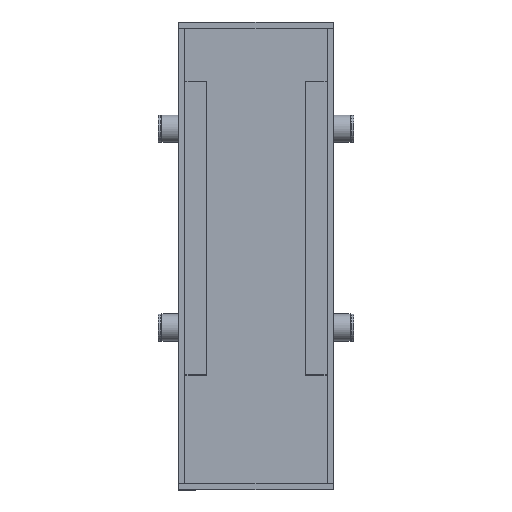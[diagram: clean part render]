
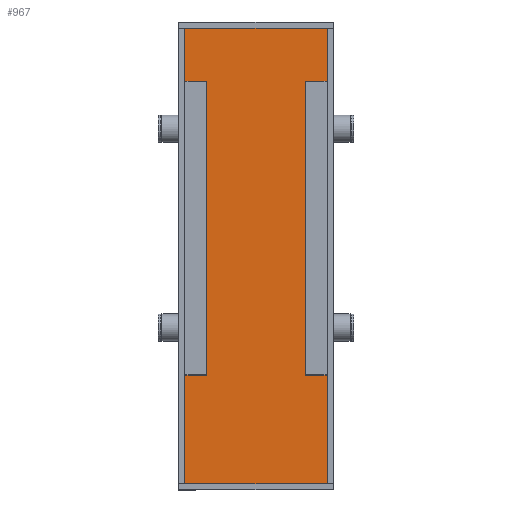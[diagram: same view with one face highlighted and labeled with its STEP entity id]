
A CAD part, top view. The second image highlights one B-rep face of the part: STEP entity #967.
In plain terms, the highlighted planar face has unit normal (0, 0, 1).
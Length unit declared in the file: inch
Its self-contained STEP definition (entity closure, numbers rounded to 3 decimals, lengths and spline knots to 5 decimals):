
#412=CARTESIAN_POINT('',(1.95496,-0.08394,0.08));
#413=VERTEX_POINT('',#412);
#564=CARTESIAN_POINT('',(0.08004,-6.09496,0.08));
#565=VERTEX_POINT('',#564);
#573=CARTESIAN_POINT('',(0.08004,-6.09106,0.08));
#574=VERTEX_POINT('',#573);
#575=CARTESIAN_POINT('',(0.08004,-6.09106,0.08));
#576=DIRECTION('',(0.0,-1.0,0.0));
#577=VECTOR('',#576,0.0039);
#578=LINE('',#575,#577);
#579=EDGE_CURVE('',#574,#565,#578,.T.);
#638=CARTESIAN_POINT('',(1.95496,-6.09106,0.08));
#639=VERTEX_POINT('',#638);
#663=CARTESIAN_POINT('',(1.95496,-6.09106,0.08));
#664=DIRECTION('',(0.0,1.0,0.0));
#665=VECTOR('',#664,6.00713);
#666=LINE('',#663,#665);
#667=EDGE_CURVE('',#639,#413,#666,.T.);
#719=CARTESIAN_POINT('',(1.95496,-6.09496,0.08));
#720=VERTEX_POINT('',#719);
#745=CARTESIAN_POINT('',(1.95496,-6.09496,0.08));
#746=DIRECTION('',(0.0,1.0,0.0));
#747=VECTOR('',#746,0.0039);
#748=LINE('',#745,#747);
#749=EDGE_CURVE('',#720,#639,#748,.T.);
#799=CARTESIAN_POINT('',(1.95496,-0.08004,0.08));
#800=VERTEX_POINT('',#799);
#808=CARTESIAN_POINT('',(1.95496,-0.08394,0.08));
#809=DIRECTION('',(0.0,1.0,0.0));
#810=VECTOR('',#809,0.0039);
#811=LINE('',#808,#810);
#812=EDGE_CURVE('',#413,#800,#811,.T.);
#928=CARTESIAN_POINT('',(1.0175,-3.0875,0.08));
#929=DIRECTION('',(0.0,0.0,1.0));
#930=DIRECTION('',(1.0,0.0,0.0));
#931=AXIS2_PLACEMENT_3D('',#928,#929,#930);
#932=PLANE('',#931);
#933=ORIENTED_EDGE('',*,*,#749,.T.);
#934=ORIENTED_EDGE('',*,*,#667,.T.);
#935=ORIENTED_EDGE('',*,*,#812,.T.);
#936=CARTESIAN_POINT('',(0.08004,-0.08004,0.08));
#937=VERTEX_POINT('',#936);
#938=CARTESIAN_POINT('',(1.95496,-0.08004,0.08));
#939=DIRECTION('',(-1.0,0.0,0.0));
#940=VECTOR('',#939,1.87492);
#941=LINE('',#938,#940);
#942=EDGE_CURVE('',#800,#937,#941,.T.);
#943=ORIENTED_EDGE('',*,*,#942,.T.);
#944=CARTESIAN_POINT('',(0.08004,-0.08394,0.08));
#945=VERTEX_POINT('',#944);
#946=CARTESIAN_POINT('',(0.08004,-0.08004,0.08));
#947=DIRECTION('',(0.0,-1.0,0.0));
#948=VECTOR('',#947,0.0039);
#949=LINE('',#946,#948);
#950=EDGE_CURVE('',#937,#945,#949,.T.);
#951=ORIENTED_EDGE('',*,*,#950,.T.);
#952=CARTESIAN_POINT('',(0.08004,-0.08394,0.08));
#953=DIRECTION('',(0.0,-1.0,0.0));
#954=VECTOR('',#953,6.00713);
#955=LINE('',#952,#954);
#956=EDGE_CURVE('',#945,#574,#955,.T.);
#957=ORIENTED_EDGE('',*,*,#956,.T.);
#958=ORIENTED_EDGE('',*,*,#579,.T.);
#959=CARTESIAN_POINT('',(0.08004,-6.09496,0.08));
#960=DIRECTION('',(1.0,0.0,0.0));
#961=VECTOR('',#960,1.87492);
#962=LINE('',#959,#961);
#963=EDGE_CURVE('',#565,#720,#962,.T.);
#964=ORIENTED_EDGE('',*,*,#963,.T.);
#965=EDGE_LOOP('',(#933,#934,#935,#943,#951,#957,#958,#964));
#966=FACE_OUTER_BOUND('',#965,.T.);
#967=ADVANCED_FACE('',(#966),#932,.T.);
